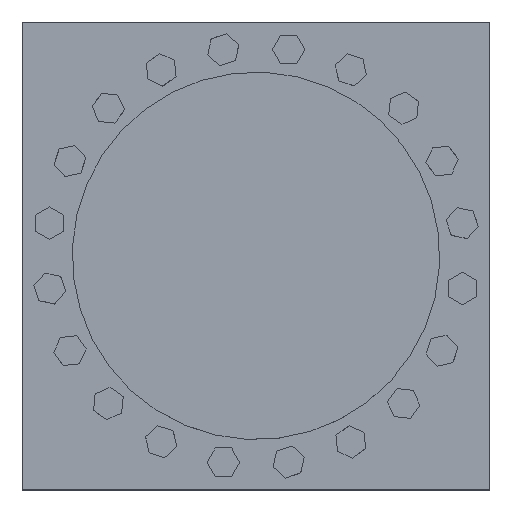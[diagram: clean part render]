
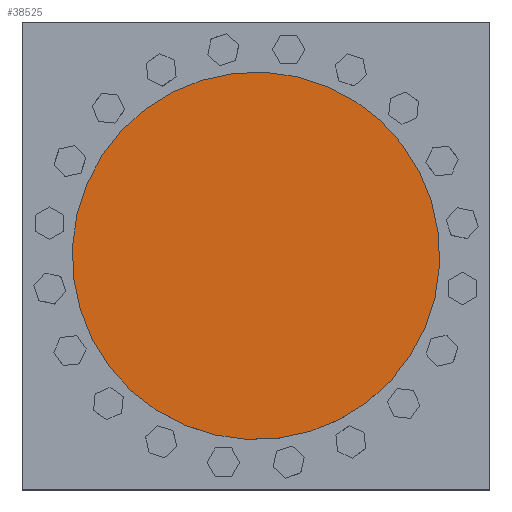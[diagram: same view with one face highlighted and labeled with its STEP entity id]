
A CAD part, top view. The second image highlights one B-rep face of the part: STEP entity #38525.
In plain terms, the highlighted planar face has unit normal (0, 0, 1).
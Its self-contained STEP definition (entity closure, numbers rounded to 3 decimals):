
#4925=PLANE('',#41418);
#7348=FACE_OUTER_BOUND('',#10149,.T.);
#10149=EDGE_LOOP('',(#25048));
#14032=CIRCLE('',#41416,11.);
#16507=VERTEX_POINT('',#58545);
#19960=EDGE_CURVE('',#16507,#16507,#14032,.T.);
#25048=ORIENTED_EDGE('',*,*,#19960,.T.);
#38525=ADVANCED_FACE('',(#7348),#4925,.T.);
#41416=AXIS2_PLACEMENT_3D('',#58546,#46720,#46721);
#41418=AXIS2_PLACEMENT_3D('',#58548,#46724,#46725);
#46720=DIRECTION('center_axis',(0.,0.,
1.));
#46721=DIRECTION('ref_axis',(-0.975,0.224,0.));
#46724=DIRECTION('center_axis',(0.,0.,
1.));
#46725=DIRECTION('ref_axis',(-0.975,0.224,0.));
#58545=CARTESIAN_POINT('',(10.72,-2.467,10.));
#58546=CARTESIAN_POINT('Origin',(0.,0.,10.));
#58548=CARTESIAN_POINT('Origin',(0.,0.,10.));
